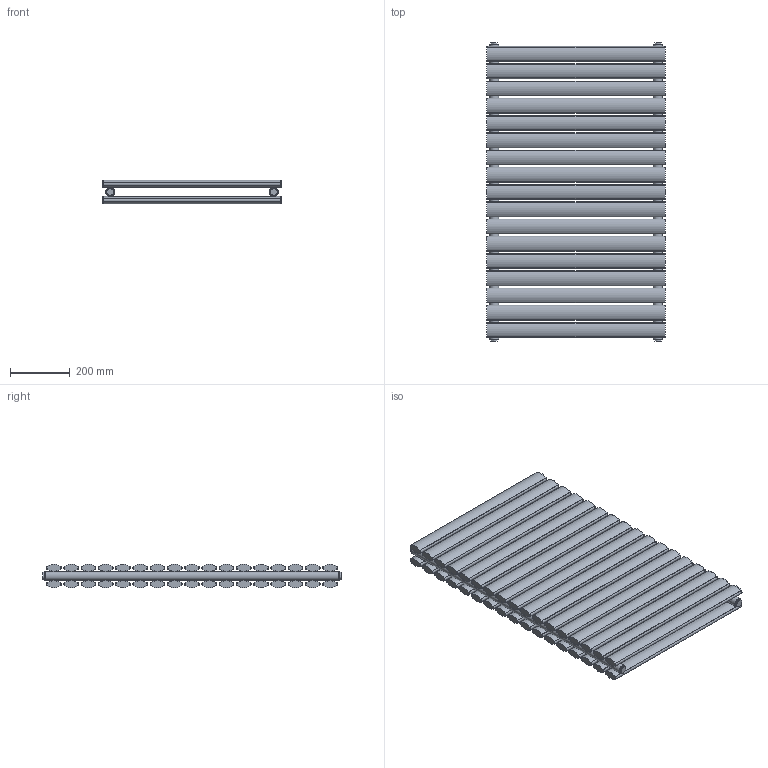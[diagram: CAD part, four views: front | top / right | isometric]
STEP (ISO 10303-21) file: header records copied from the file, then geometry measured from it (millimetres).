
FILE_DESCRIPTION(/* description */ (''),/* implementation_level */ '2;1');
FILE_NAME(/* name */ 'C:\Grzejniki\13DLUXRAD\pokojowe\FORTUNA\FORTUNA PODWÓJNA 600x990.iam.stp',/* time_stamp */ '2016-06-28T17:32:04+02:00',/* author */ ('m.szydziak'),/* organization */ (''),/* preprocessor_version */ 'ST-DEVELOPER v16.5',/* originating_system */ 'Autodesk Inventor 2017',/* authorisation */ '');
FILE_SCHEMA (('AUTOMOTIVE_DESIGN { 1 0 10303 214 3 1 1 }'));
Length unit declared in the file: millimetre
Products named in the file (5): FORTUNA PODWÓJNA 600x990; %%c30x1,5x990; 50x25x1,2x600; zaślepka fi30 G0,5inch; korek
Assembly tree (44 placements, depth 2):
  FORTUNA PODWÓJNA 600x990
    %%c30x1,5x990  x2
    50x25x1,2x600  x34
    zaślepka fi30 G0,5inch  x4
    korek  x4
Bounding box: 600 x 1002 x 79.72 mm (x, y, z)
Volume: 4333663 mm3; surface area: 5069976.1 mm2
Topology: 44 solids, 44 shells, 558 faces, 1346 edges, 944 vertices
Faces by surface type: cylinder 354, plane 204
Full cylindrical faces by diameter (mm): 5.8 x68, 18.631 x4, 24 x4, 27 x4, 30 x2
Entity records: 1565 total; most frequent: CARTESIAN_POINT 347, DIRECTION 272, ORIENTED_EDGE 146, AXIS2_PLACEMENT_3D 120, EDGE_CURVE 73, VERTEX_POINT 53, PRODUCT_DEFINITION_SHAPE 49, EDGE_LOOP 48
